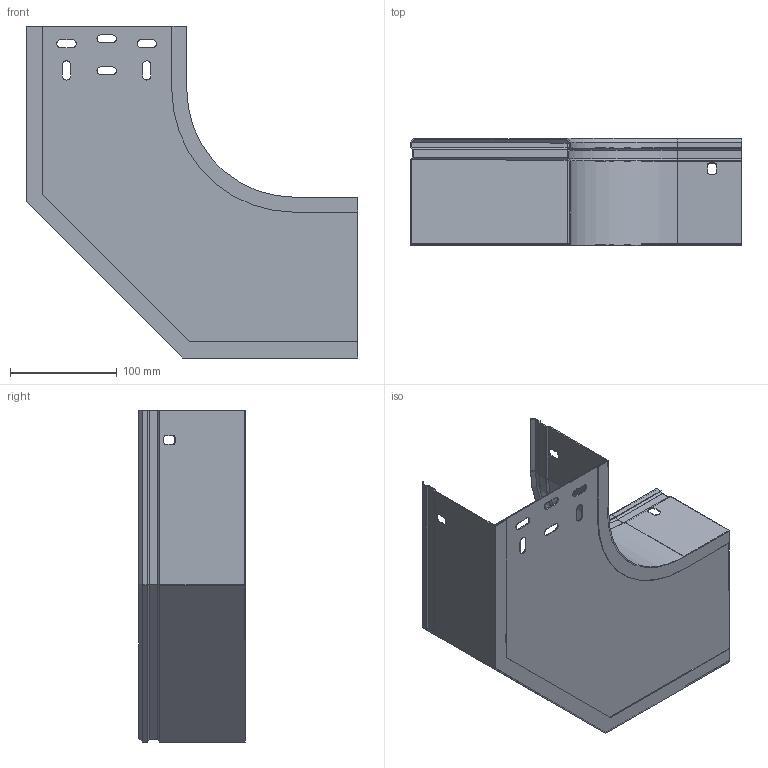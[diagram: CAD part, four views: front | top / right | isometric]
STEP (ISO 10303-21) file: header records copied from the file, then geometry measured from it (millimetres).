
FILE_DESCRIPTION (( 'STEP AP203' ), '1' );
FILE_NAME ('ERE_CPERC 150x100.step', '2023-07-27T18:47:55', ( '' ), ( '' ), 'SwSTEP 2.0', 'SolidWorks 2022', '' );
FILE_SCHEMA (( 'CONFIG_CONTROL_DESIGN' ));
Length unit declared in the file: millimetre
Products named in the file (4): ERE_CPERC 150x100; ERE_BASE CP_150; ERE_LATERAL EXT CP_150 x 100; ERE_LATERAL INT CP_100
Assembly tree (3 placements, depth 2):
  ERE_CPERC 150x100
    ERE_BASE CP_150
    ERE_LATERAL INT CP_100
    ERE_LATERAL EXT CP_150 x 100
Bounding box: 310.37 x 100 x 310.37 mm (x, y, z)
Volume: 154419.4 mm3; surface area: 312441.2 mm2
Topology: 3 solids, 3 shells, 146 faces, 372 edges, 232 vertices
Faces by surface type: plane 107, cylinder 32, cone 7
Entity records: 4772 total; most frequent: CARTESIAN_POINT 756, ORIENTED_EDGE 744, DIRECTION 742, EDGE_CURVE 372, VECTOR 306, LINE 306, VERTEX_POINT 232, AXIS2_PLACEMENT_3D 218
